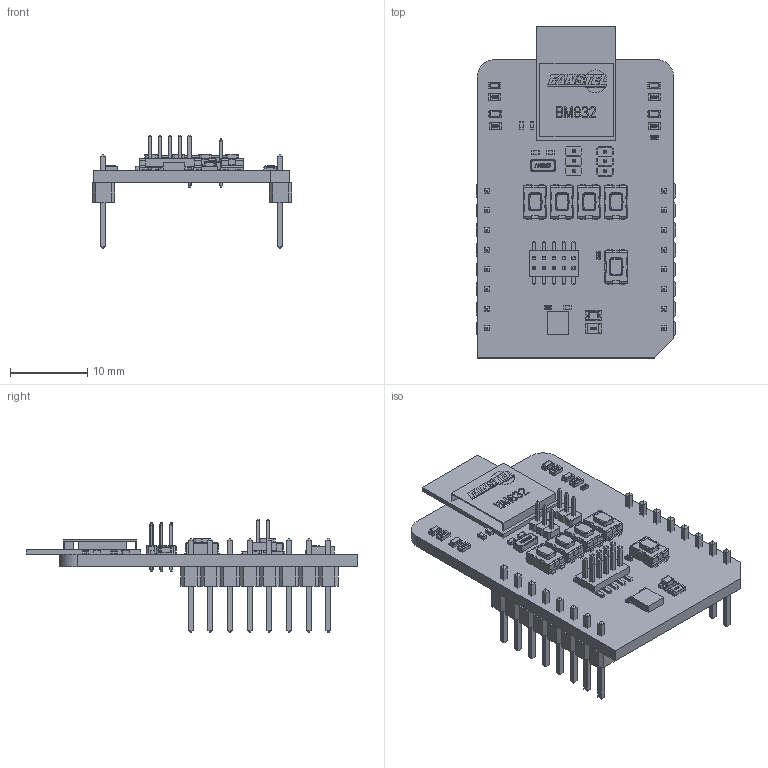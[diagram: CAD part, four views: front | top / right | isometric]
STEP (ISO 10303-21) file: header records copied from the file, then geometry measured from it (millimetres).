
FILE_DESCRIPTION(('Open CASCADE Model'),'2;1');
FILE_NAME('Open CASCADE Shape Model','2026-06-16T11:06:32',('Author'),( 'Open CASCADE'),'Open CASCADE STEP processor 6.8','Open CASCADE 6.8' ,'Unknown');
FILE_SCHEMA(('AUTOMOTIVE_DESIGN { 1 0 10303 214 1 1 1 1 }'));
Length unit declared in the file: millimetre
Products named in the file (60): PCB; Board; C5; User_Library-SMD_CAPACITOR0402; C4; T5; User_Library-Switch-CK-KMR2; User_Library-Switch-CK-KMR2_Button; User_Library-Switch-CK-KMR2_Boitier; User_Library-Switch-CK-KMR2_Tole; User_Library-Switch-CK-KMR2_Pads; R7; User_Library-R_0402; R6; User_Library-R_0603; R5; R4; R3; LD5; Led_0603_RED; LD4; LD3; LD2; J3; M50-3530342; M50-353-Pin; J2; R1; User_Library-R_0805; LD1; led_0805_green; R2; C1; U1; 1197671592; Extruded; MBD1; Header_1x8; Free-Models; 1240637040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
Assembly tree (80 placements, depth 7):
  PCB
    Board
    C5
      User_Library-SMD_CAPACITOR0402
    C4
      User_Library-SMD_CAPACITOR0402
    T5
      User_Library-Switch-CK-KMR2
        User_Library-Switch-CK-KMR2_Button
        User_Library-Switch-CK-KMR2_Boitier
        User_Library-Switch-CK-KMR2_Tole
        User_Library-Switch-CK-KMR2_Pads
    R7
      User_Library-R_0402
    R6
      User_Library-R_0603
    R5
      User_Library-R_0603
    R4
      User_Library-R_0603
    R3
      User_Library-R_0603
    LD5
      Led_0603_RED
    LD4
      Led_0603_RED
    LD3
      Led_0603_RED
    LD2
      Led_0603_RED
    J3
      M50-3530342
        M50-353-Pin  x3
    J2
      M50-3530342
        M50-353-Pin  x3
    R1
      User_Library-R_0805
    LD1
      led_0805_green
    R2
      User_Library-R_0402
    C1
      User_Library-SMD_CAPACITOR0402
    U1
      1197671592
        Extruded
    MBD1
      Header_1x8  x2
        PCB
          Free-Models
            1240637040  x2
              User_Library-PinHeaderX5-1_PinHeaderX5_Body_1
              User_Library-PinHeaderX5-1_PinHeaderX5_Pins_1
    C2
      User_Library-SMD_CAPACITOR0402
    C3
      User_Library-SMD_CAPACITOR0402
    J1
      User_Library-RM127_10pin_Header
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Bounding box: 25.78 x 42.86 x 14.61 mm (x, y, z)
Volume: 2295.2 mm3; surface area: 4886.9 mm2
Topology: 99 solids, 99 shells, 4444 faces, 11246 edges, 7000 vertices
Faces by surface type: plane 2734, cylinder 790, bspline 612, sphere 156, revolution 48, extrusion 38, torus 36, cone 30
Entity records: 78888 total; most frequent: CARTESIAN_POINT 21050, ORIENTED_EDGE 10222, DIRECTION 8337, EDGE_CURVE 5111, VECTOR 3985, LINE 3947, VERTEX_POINT 3300, AXIS2_PLACEMENT_3D 2172
